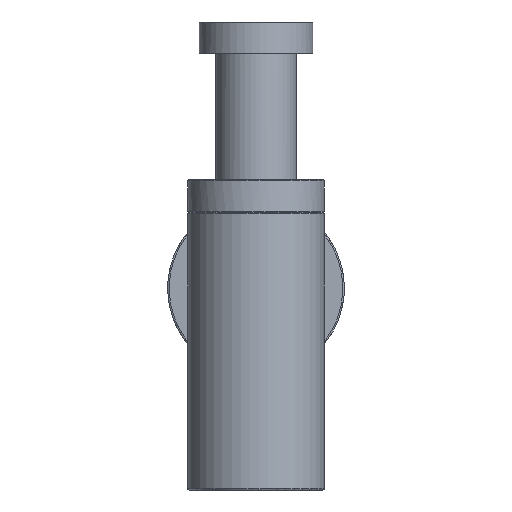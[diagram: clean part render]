
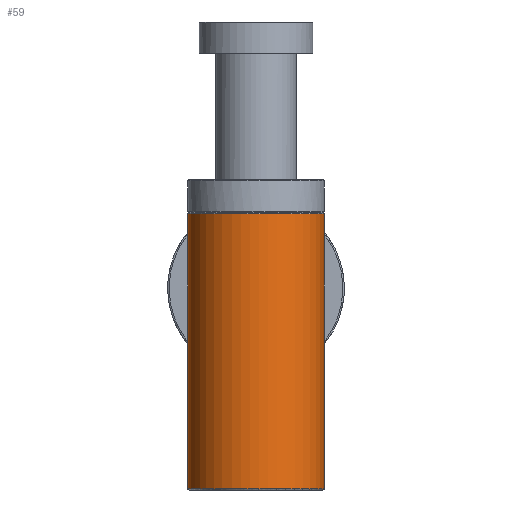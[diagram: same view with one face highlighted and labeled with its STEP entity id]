
A CAD part, front view. The second image highlights one B-rep face of the part: STEP entity #59.
In plain terms, the highlighted cylindrical face has radius 27 mm (diameter 54 mm), a partial arc.
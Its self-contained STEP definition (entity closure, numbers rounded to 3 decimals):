
#59=ADVANCED_FACE('',(#100),#467,.T.);
#100=FACE_OUTER_BOUND('',#148,.T.);
#148=EDGE_LOOP('',(#296,#297,#298,#299));
#296=ORIENTED_EDGE('',*,*,#389,.F.);
#297=ORIENTED_EDGE('',*,*,#368,.F.);
#298=ORIENTED_EDGE('',*,*,#387,.T.);
#299=ORIENTED_EDGE('',*,*,#366,.F.);
#366=EDGE_CURVE('',#436,#437,#540,.T.);
#368=EDGE_CURVE('',#438,#439,#542,.T.);
#387=EDGE_CURVE('',#438,#437,#560,.T.);
#389=EDGE_CURVE('',#439,#436,#562,.T.);
#436=VERTEX_POINT('',#1013);
#437=VERTEX_POINT('',#1014);
#438=VERTEX_POINT('',#1015);
#439=VERTEX_POINT('',#1016);
#467=CYLINDRICAL_SURFACE('',#678,27.);
#540=(
BOUNDED_CURVE()
B_SPLINE_CURVE(1,(#1272,#1273),.UNSPECIFIED.,.F.,.F.)
B_SPLINE_CURVE_WITH_KNOTS((2,2),(0.573,125.508),
 .UNSPECIFIED.)
CURVE()
GEOMETRIC_REPRESENTATION_ITEM()
RATIONAL_B_SPLINE_CURVE((1.,1.))
REPRESENTATION_ITEM('')
);
#542=(
BOUNDED_CURVE()
B_SPLINE_CURVE(1,(#1279,#1280),.UNSPECIFIED.,.F.,.F.)
B_SPLINE_CURVE_WITH_KNOTS((2,2),(-125.508,-0.573),
 .UNSPECIFIED.)
CURVE()
GEOMETRIC_REPRESENTATION_ITEM()
RATIONAL_B_SPLINE_CURVE((1.,1.))
REPRESENTATION_ITEM('')
);
#560=(
BOUNDED_CURVE()
B_SPLINE_CURVE(2,(#1430,#1431,#1432,#1433,#1434),.UNSPECIFIED.,.F.,.F.)
B_SPLINE_CURVE_WITH_KNOTS((3,2,3),(-169.646,-127.235,
-84.823),.UNSPECIFIED.)
CURVE()
GEOMETRIC_REPRESENTATION_ITEM()
RATIONAL_B_SPLINE_CURVE((1.,0.707,1.,0.707,1.))
REPRESENTATION_ITEM('')
);
#562=(
BOUNDED_CURVE()
B_SPLINE_CURVE(2,(#1440,#1441,#1442,#1443,#1444),.UNSPECIFIED.,.F.,.F.)
B_SPLINE_CURVE_WITH_KNOTS((3,2,3),(-166.503,-124.878,
-83.252),.UNSPECIFIED.)
CURVE()
GEOMETRIC_REPRESENTATION_ITEM()
RATIONAL_B_SPLINE_CURVE((1.,0.707,1.,0.707,1.))
REPRESENTATION_ITEM('')
);
#678=AXIS2_PLACEMENT_3D('',#939,#709,$);
#709=DIRECTION('',(0.,0.,1.));
#939=CARTESIAN_POINT('',(0.,-146.,134.178));
#1013=CARTESIAN_POINT('',(-27.,-146.,79.678));
#1014=CARTESIAN_POINT('',(-27.,-146.,188.678));
#1015=CARTESIAN_POINT('',(27.,-146.,188.678));
#1016=CARTESIAN_POINT('',(27.,-146.,79.678));
#1272=CARTESIAN_POINT('',(-27.,-146.,79.678));
#1273=CARTESIAN_POINT('',(-27.,-146.,188.678));
#1279=CARTESIAN_POINT('',(27.,-146.,188.678));
#1280=CARTESIAN_POINT('',(27.,-146.,79.678));
#1430=CARTESIAN_POINT('',(27.,-146.,188.678));
#1431=CARTESIAN_POINT('',(27.,-173.,188.678));
#1432=CARTESIAN_POINT('',(0.,-173.,188.678));
#1433=CARTESIAN_POINT('',(-27.,-173.,188.678));
#1434=CARTESIAN_POINT('',(-27.,-146.,188.678));
#1440=CARTESIAN_POINT('',(27.,-146.,79.678));
#1441=CARTESIAN_POINT('',(27.,-173.,79.678));
#1442=CARTESIAN_POINT('',(0.,-173.,79.678));
#1443=CARTESIAN_POINT('',(-27.,-173.,79.678));
#1444=CARTESIAN_POINT('',(-27.,-146.,79.678));
